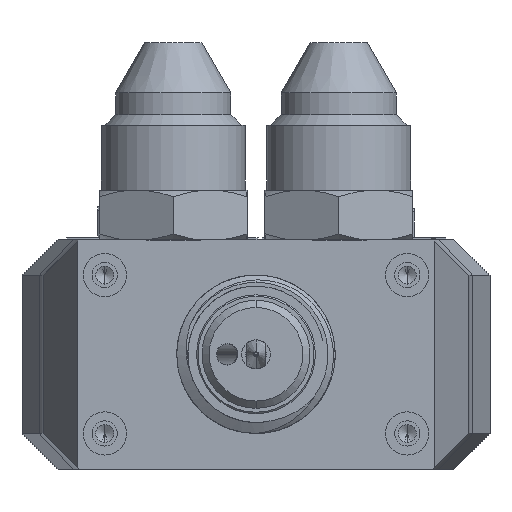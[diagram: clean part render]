
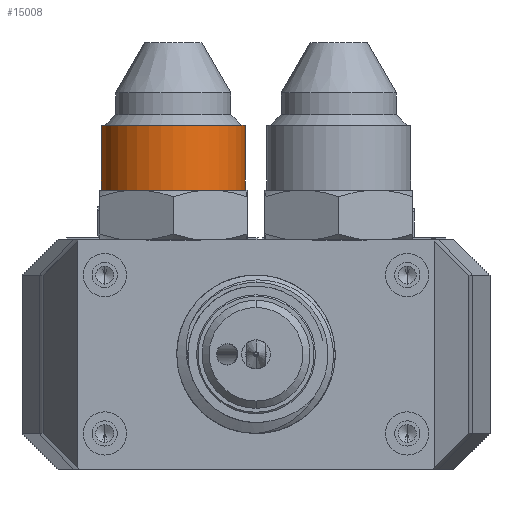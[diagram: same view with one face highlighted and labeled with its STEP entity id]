
A CAD part, front view. The second image highlights one B-rep face of the part: STEP entity #15008.
In plain terms, the highlighted cylindrical face has radius 10 mm (diameter 20 mm), a partial arc.
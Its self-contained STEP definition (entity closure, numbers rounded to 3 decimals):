
#519 = DIRECTION ( 'NONE',  ( 1., 0., 0. ) ) ;
#851 = CARTESIAN_POINT ( 'NONE',  ( -94.455, -144.23, 1021.303 ) ) ;
#1536 = EDGE_CURVE ( 'NONE', #32930, #49701, #13241, .T. ) ;
#3134 = LINE ( 'NONE', #23024, #23666 ) ;
#4862 = VECTOR ( 'NONE', #32137, 1000. ) ;
#5349 = DIRECTION ( 'NONE',  ( 0., 0., 1. ) ) ;
#7462 = CIRCLE ( 'NONE', #16666, 10. ) ;
#7947 = CARTESIAN_POINT ( 'NONE',  ( -84.455, -144.23, 1052.575 ) ) ;
#8771 = AXIS2_PLACEMENT_3D ( 'NONE', #7947, #26656, #34749 ) ;
#10679 = CYLINDRICAL_SURFACE ( 'NONE', #8771, 10. ) ;
#10841 = VERTEX_POINT ( 'NONE', #851 ) ;
#13241 = CIRCLE ( 'NONE', #45013, 10. ) ;
#14137 = DIRECTION ( 'NONE',  ( 0., 0., 1. ) ) ;
#14332 = ORIENTED_EDGE ( 'NONE', *, *, #1536, .T. ) ;
#15008 = ADVANCED_FACE ( 'NONE', ( #46269 ), #10679, .T. ) ;
#15930 = CARTESIAN_POINT ( 'NONE',  ( -74.455, -144.23, 1052.575 ) ) ;
#16452 = ORIENTED_EDGE ( 'NONE', *, *, #19887, .T. ) ;
#16615 = DIRECTION ( 'NONE',  ( 1., 0., 0. ) ) ;
#16666 = AXIS2_PLACEMENT_3D ( 'NONE', #36239, #5349, #16615 ) ;
#17014 = ORIENTED_EDGE ( 'NONE', *, *, #37170, .F. ) ;
#19887 = EDGE_CURVE ( 'NONE', #42667, #32930, #24300, .T. ) ;
#20387 = DIRECTION ( 'NONE',  ( 0., 0., -1. ) ) ;
#20650 = CARTESIAN_POINT ( 'NONE',  ( -84.455, -144.23, 1030.303 ) ) ;
#21452 = EDGE_CURVE ( 'NONE', #10841, #42667, #7462, .T. ) ;
#22706 = CARTESIAN_POINT ( 'NONE',  ( -94.455, -144.23, 1030.303 ) ) ;
#23024 = CARTESIAN_POINT ( 'NONE',  ( -94.455, -144.23, 1052.575 ) ) ;
#23535 = CARTESIAN_POINT ( 'NONE',  ( -74.455, -144.23, 1030.303 ) ) ;
#23666 = VECTOR ( 'NONE', #14137, 1000. ) ;
#24300 = LINE ( 'NONE', #15930, #4862 ) ;
#26656 = DIRECTION ( 'NONE',  ( 0., 0., 1. ) ) ;
#26838 = ORIENTED_EDGE ( 'NONE', *, *, #21452, .T. ) ;
#30987 = CARTESIAN_POINT ( 'NONE',  ( -74.455, -144.23, 1021.303 ) ) ;
#32137 = DIRECTION ( 'NONE',  ( 0., 0., 1. ) ) ;
#32930 = VERTEX_POINT ( 'NONE', #23535 ) ;
#34749 = DIRECTION ( 'NONE',  ( 1., 0., 0. ) ) ;
#36239 = CARTESIAN_POINT ( 'NONE',  ( -84.455, -144.23, 1021.303 ) ) ;
#37170 = EDGE_CURVE ( 'NONE', #10841, #49701, #3134, .T. ) ;
#40263 = EDGE_LOOP ( 'NONE', ( #17014, #26838, #16452, #14332 ) ) ;
#42667 = VERTEX_POINT ( 'NONE', #30987 ) ;
#45013 = AXIS2_PLACEMENT_3D ( 'NONE', #20650, #20387, #519 ) ;
#46269 = FACE_OUTER_BOUND ( 'NONE', #40263, .T. ) ;
#49701 = VERTEX_POINT ( 'NONE', #22706 ) ;
